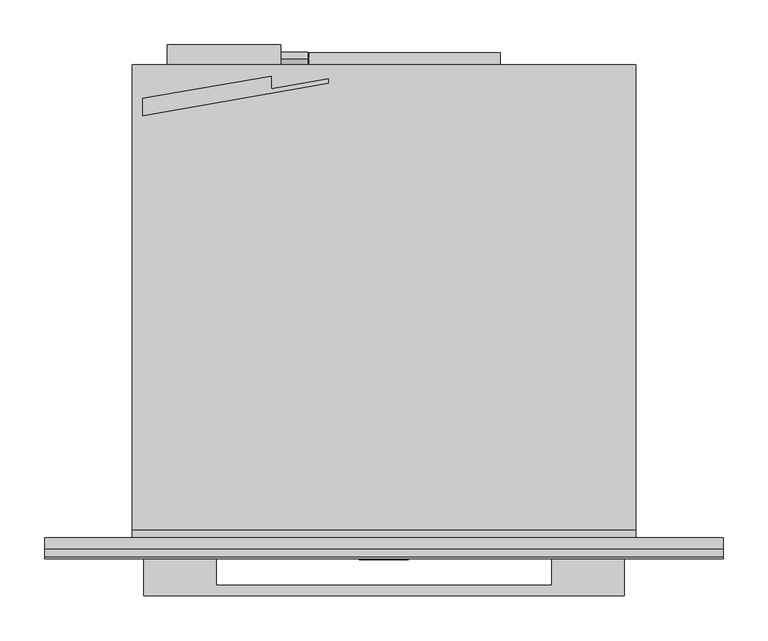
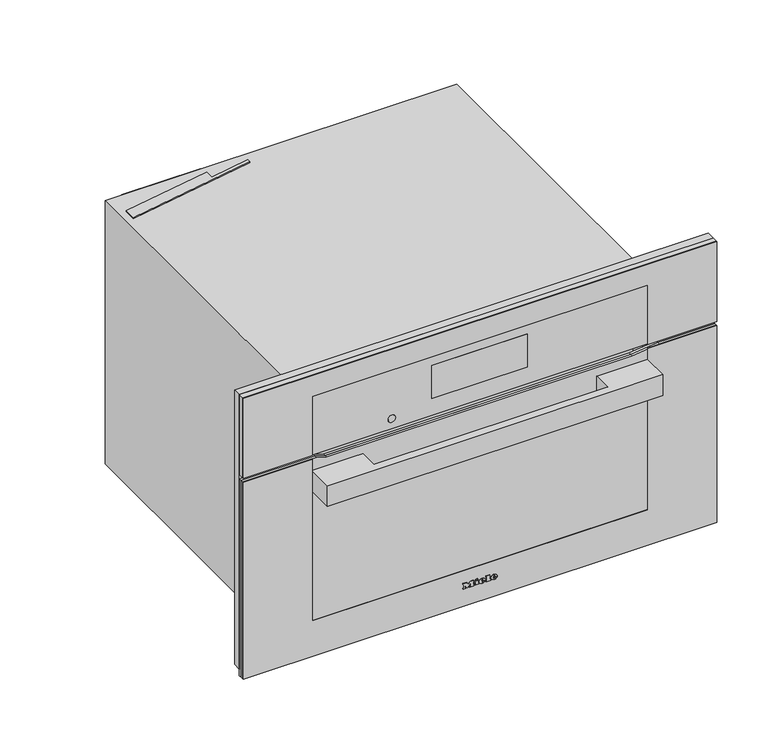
"""IFC4 building model written with IfcOpenShell, lengths in millimetres: proxy geometry, 11804620_USA_H7770BM_EDST-CLST : 22777046_USA_11804620_H7770BM_EDST-CLST."""

from ifc_helpers import new_model, si_unit, point, frame, frame_2d, origin, place, context, project, spatial, polyline, circle_curve, ellipse_curve, trimmed, segment, composite_curve, outline, extrude, faceted_brep, source, transform, mapped, element, save
from ifc_brep_helpers import plane_surface, cylinder_surface, revolved_surface, extruded_surface, advanced_brep


def specialty_equipment_66f69a2f(model_context):
    return source(origin(), model_context, "Body", "SolidModel", [
        advanced_brep(
        [(21.28, -24.3, 36.133), (21.28, -24.3, 37.042), (27.301, -24.3, 37.042), (16.825, -24.3, 37.042), (19.3, -24.3, 34.0), (27.148, -24.3, 36.133), (24.43, -24.3, 36.133), (22.288, -24.3, 35.125), (21.28, -24.3, 38.194), (21.28, -24.3, 39.175), (22.819, -24.3, 39.175), (22.819, -24.3, 38.194), (21.28, -23.3, 36.133), (22.288, -23.3, 35.125), (24.43, -23.3, 36.133), (27.148, -23.3, 36.133), (19.3, -23.3, 34.0), (16.825, -23.3, 37.042), (27.301, -23.3, 37.042), (21.28, -23.3, 37.042), (21.28, -23.3, 38.194), (22.819, -23.3, 38.194), (22.819, -23.3, 39.175), (21.28, -23.3, 39.175)],
        [
            (0, 1),
            (1, 2),
            (2, 3, ellipse_curve(frame((22.063, -24.3, 37.042), z_axis=(0.0, -1.0, 0.0), x_axis=(-1.0, 0.0, 0.0)), 5.238, 4.329)),
            (3, 4, circle_curve(frame((20.3080491, -24.3, 37.348), z_axis=(0.0, -1.0, 0.0), x_axis=(0.0, 0.0, -1.0)), 3.4964649)),
            (4, 5, circle_curve(frame((21.9581428, -24.3, 39.724), z_axis=(0.0, -1.0, 0.0), x_axis=(0.0, 0.0, -1.0)), 6.3110933)),
            (5, 6),
            (6, 7, circle_curve(frame((22.7279412, -24.3, 36.97), z_axis=(0.0, 1.0, 0.0), x_axis=(0.0, 0.0, -1.0)), 1.896727)),
            (7, 0, circle_curve(frame((22.288, -24.3, 36.133), z_axis=(0.0, 1.0, 0.0), x_axis=(0.0, 0.0, -1.0)), 1.008)),
            (8, 9),
            (9, 10, circle_curve(frame((22.0495, -24.3, 39.175), z_axis=(0.0, 1.0, 0.0), x_axis=(0.0, 0.0, -1.0)), 0.7695)),
            (10, 11),
            (11, 8),
            (12, 13, circle_curve(frame((22.288, -23.3, 36.133), z_axis=(0.0, -1.0, 0.0), x_axis=(0.0, 0.0, -1.0)), 1.008)),
            (13, 14, circle_curve(frame((22.7279412, -23.3, 36.97), z_axis=(0.0, -1.0, 0.0), x_axis=(0.0, 0.0, -1.0)), 1.896727)),
            (14, 15),
            (15, 16, circle_curve(frame((21.9581428, -23.3, 39.724), z_axis=(0.0, 1.0, 0.0), x_axis=(0.0, 0.0, -1.0)), 6.3110933)),
            (16, 17, circle_curve(frame((20.3080491, -23.3, 37.348), z_axis=(0.0, 1.0, 0.0), x_axis=(0.0, 0.0, -1.0)), 3.4964649)),
            (17, 18, ellipse_curve(frame((22.063, -23.3, 37.042), z_axis=(0.0, 1.0, 0.0), x_axis=(-1.0, 0.0, 0.0)), 5.238, 4.329)),
            (18, 19),
            (19, 12),
            (20, 21),
            (21, 22),
            (22, 23, circle_curve(frame((22.0495, -23.3, 39.175), z_axis=(0.0, -1.0, 0.0), x_axis=(0.0, 0.0, -1.0)), 0.7695)),
            (23, 20),
            (0, 12),
            (19, 1),
            (18, 2),
            (5, 15),
            (14, 6),
            (17, 3),
            (13, 7),
            (16, 4),
            (8, 20),
            (23, 9),
            (22, 10),
            (21, 11),
        ],
        [
            plane_surface(frame((21.28, -24.3, 37.042), z_axis=(0.0, -1.0, 0.0), x_axis=(0.0, 0.0, 1.0))),
            plane_surface(frame((21.28, -23.3, 37.042), z_axis=(0.0, 1.0, 0.0), x_axis=(0.0, 0.0, -1.0))),
            plane_surface(frame((21.28, -24.3, 36.133), z_axis=(1.0, 0.0, 0.0), x_axis=(0.0, 1.0, 0.0))),
            plane_surface(frame((21.28, -24.3, 37.042), z_axis=(0.0, 0.0, -1.0), x_axis=(0.0, 1.0, 0.0))),
            plane_surface(frame((27.148, -24.3, 36.133), z_axis=(0.0, 0.0, 1.0), x_axis=(0.0, 1.0, 0.0))),
            extruded_surface(trimmed(ellipse_curve(frame((22.063, -22.3, 37.042), z_axis=(0.0, -1.0, 0.0), x_axis=(-1.0, 0.0, 0.0)), 5.238, 4.329), [point((27.301, -22.3, 37.042))], [point((16.825, -22.3, 37.042))], True, "CARTESIAN"), (0.0, -1.0, 0.0), 1.0),
            revolved_surface(polyline([(22.7279412, -23.3, 35.073273), (22.7279412, -24.3, 35.073273)]), (22.7279412, -23.3, 36.97), (0.0, 1.0, 0.0)),
            revolved_surface(polyline([(22.288, -23.3, 35.125), (22.288, -24.3, 35.125)]), (22.288, -23.3, 36.133), (0.0, 1.0, 0.0)),
            cylinder_surface(frame((20.3080491, -23.3, 37.348), z_axis=(0.0, -1.0, 0.0), x_axis=(0.0, 0.0, -1.0)), 3.4964649),
            cylinder_surface(frame((21.9581428, -23.3, 39.724), z_axis=(0.0, -1.0, 0.0), x_axis=(0.0, 0.0, -1.0)), 6.3110933),
            plane_surface(frame((21.28, -24.3, 38.194), z_axis=(1.0, 0.0, 0.0), x_axis=(0.0, 1.0, 0.0))),
            revolved_surface(polyline([(22.0495, -23.3, 38.405499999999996), (22.0495, -24.3, 38.405499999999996)]), (22.0495, -23.3, 39.175), (0.0, 1.0, 0.0)),
            plane_surface(frame((22.819, -24.3, 39.175), z_axis=(-1.0, 0.0, 0.0), x_axis=(0.0, 1.0, 0.0))),
            plane_surface(frame((22.819, -24.3, 38.194), z_axis=(0.0, 0.0, 1.0), x_axis=(0.0, 1.0, 0.0))),
        ],
        [
            (0, [[1, 2, 3, 4, 5, 6, 7, 8], [9, 10, 11, 12]]),
            (1, [[13, 14, 15, 16, 17, 18, 19, 20], [21, 22, 23, 24]]),
            (2, [[-1, 25, -20, 26]]),
            (3, [[-2, -26, -19, 27]]),
            (4, [[-6, 28, -15, 29]]),
            (5, [[-3, -27, -18, 30]]),
            (6, [[-7, -29, -14, 31]]),
            (7, [[-8, -31, -13, -25]]),
            (8, [[-4, -30, -17, 32]]),
            (9, [[-5, -32, -16, -28]]),
            (10, [[-9, 33, -24, 34]]),
            (11, [[-10, -34, -23, 35]]),
            (12, [[-11, -35, -22, 36]]),
            (13, [[-12, -36, -21, -33]]),
        ],
    ),
        advanced_brep(
        [(2.497, -24.3, 36.133), (2.497, -24.3, 37.042), (8.518, -24.3, 37.042), (-1.958, -24.3, 37.042), (0.517, -24.3, 34.0), (8.365, -24.3, 36.133), (5.647, -24.3, 36.133), (3.505, -24.3, 35.125), (2.497, -24.3, 38.194), (2.497, -24.3, 39.175), (4.036, -24.3, 39.175), (4.036, -24.3, 38.194), (2.497, -23.3, 36.133), (3.505, -23.3, 35.125), (5.647, -23.3, 36.133), (8.365, -23.3, 36.133), (0.517, -23.3, 34.0), (-1.958, -23.3, 37.042), (8.518, -23.3, 37.042), (2.497, -23.3, 37.042), (2.497, -23.3, 38.194), (4.036, -23.3, 38.194), (4.036, -23.3, 39.175), (2.497, -23.3, 39.175)],
        [
            (0, 1),
            (1, 2),
            (2, 3, ellipse_curve(frame((3.28, -24.3, 37.042), z_axis=(0.0, -1.0, 0.0), x_axis=(-1.0, 0.0, 0.0)), 5.238, 4.329)),
            (3, 4, circle_curve(frame((1.5250491, -24.3, 37.348), z_axis=(0.0, -1.0, 0.0), x_axis=(0.0, 0.0, -1.0)), 3.4964649)),
            (4, 5, circle_curve(frame((3.1751428, -24.3, 39.724), z_axis=(0.0, -1.0, 0.0), x_axis=(0.0, 0.0, -1.0)), 6.3110933)),
            (5, 6),
            (6, 7, circle_curve(frame((3.9449412, -24.3, 36.97), z_axis=(0.0, 1.0, 0.0), x_axis=(0.0, 0.0, -1.0)), 1.896727)),
            (7, 0, circle_curve(frame((3.505, -24.3, 36.133), z_axis=(0.0, 1.0, 0.0), x_axis=(0.0, 0.0, -1.0)), 1.008)),
            (8, 9),
            (9, 10, circle_curve(frame((3.2665, -24.3, 39.175), z_axis=(0.0, 1.0, 0.0), x_axis=(0.0, 0.0, -1.0)), 0.7695)),
            (10, 11),
            (11, 8),
            (12, 13, circle_curve(frame((3.505, -23.3, 36.133), z_axis=(0.0, -1.0, 0.0), x_axis=(0.0, 0.0, -1.0)), 1.008)),
            (13, 14, circle_curve(frame((3.9449412, -23.3, 36.97), z_axis=(0.0, -1.0, 0.0), x_axis=(0.0, 0.0, -1.0)), 1.896727)),
            (14, 15),
            (15, 16, circle_curve(frame((3.1751428, -23.3, 39.724), z_axis=(0.0, 1.0, 0.0), x_axis=(0.0, 0.0, -1.0)), 6.3110933)),
            (16, 17, circle_curve(frame((1.5250491, -23.3, 37.348), z_axis=(0.0, 1.0, 0.0), x_axis=(0.0, 0.0, -1.0)), 3.4964649)),
            (17, 18, ellipse_curve(frame((3.28, -23.3, 37.042), z_axis=(0.0, 1.0, 0.0), x_axis=(-1.0, 0.0, 0.0)), 5.238, 4.329)),
            (18, 19),
            (19, 12),
            (20, 21),
            (21, 22),
            (22, 23, circle_curve(frame((3.2665, -23.3, 39.175), z_axis=(0.0, -1.0, 0.0), x_axis=(0.0, 0.0, -1.0)), 0.7695)),
            (23, 20),
            (0, 12),
            (19, 1),
            (18, 2),
            (5, 15),
            (14, 6),
            (17, 3),
            (13, 7),
            (16, 4),
            (8, 20),
            (23, 9),
            (22, 10),
            (21, 11),
        ],
        [
            plane_surface(frame((2.497, -24.3, 37.042), z_axis=(0.0, -1.0, 0.0), x_axis=(0.0, 0.0, 1.0))),
            plane_surface(frame((2.497, -23.3, 37.042), z_axis=(0.0, 1.0, 0.0), x_axis=(0.0, 0.0, -1.0))),
            plane_surface(frame((2.497, -24.3, 36.133), z_axis=(1.0, 0.0, 0.0), x_axis=(0.0, 1.0, 0.0))),
            plane_surface(frame((2.497, -24.3, 37.042), z_axis=(0.0, 0.0, -1.0), x_axis=(0.0, 1.0, 0.0))),
            plane_surface(frame((8.365, -24.3, 36.133), z_axis=(0.0, 0.0, 1.0), x_axis=(0.0, 1.0, 0.0))),
            extruded_surface(trimmed(ellipse_curve(frame((3.28, -22.3, 37.042), z_axis=(0.0, -1.0, 0.0), x_axis=(-1.0, 0.0, 0.0)), 5.238, 4.329), [point((8.518, -22.3, 37.042))], [point((-1.958, -22.3, 37.042))], True, "CARTESIAN"), (0.0, -1.0, 0.0), 1.0),
            revolved_surface(polyline([(3.9449412, -23.3, 35.073273), (3.9449412, -24.3, 35.073273)]), (3.9449412, -23.3, 36.97), (0.0, 1.0, 0.0)),
            revolved_surface(polyline([(3.505, -23.3, 35.125), (3.505, -24.3, 35.125)]), (3.505, -23.3, 36.133), (0.0, 1.0, 0.0)),
            cylinder_surface(frame((1.5250491, -23.3, 37.348), z_axis=(0.0, -1.0, 0.0), x_axis=(0.0, 0.0, -1.0)), 3.4964649),
            cylinder_surface(frame((3.1751428, -23.3, 39.724), z_axis=(0.0, -1.0, 0.0), x_axis=(0.0, 0.0, -1.0)), 6.3110933),
            plane_surface(frame((2.497, -24.3, 38.194), z_axis=(1.0, 0.0, 0.0), x_axis=(0.0, 1.0, 0.0))),
            revolved_surface(polyline([(3.2665, -23.3, 38.405499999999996), (3.2665, -24.3, 38.405499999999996)]), (3.2665, -23.3, 39.175), (0.0, 1.0, 0.0)),
            plane_surface(frame((4.036, -24.3, 39.175), z_axis=(-1.0, 0.0, 0.0), x_axis=(0.0, 1.0, 0.0))),
            plane_surface(frame((4.036, -24.3, 38.194), z_axis=(0.0, 0.0, 1.0), x_axis=(0.0, 1.0, 0.0))),
        ],
        [
            (0, [[1, 2, 3, 4, 5, 6, 7, 8], [9, 10, 11, 12]]),
            (1, [[13, 14, 15, 16, 17, 18, 19, 20], [21, 22, 23, 24]]),
            (2, [[-1, 25, -20, 26]]),
            (3, [[-2, -26, -19, 27]]),
            (4, [[-6, 28, -15, 29]]),
            (5, [[-3, -27, -18, 30]]),
            (6, [[-7, -29, -14, 31]]),
            (7, [[-8, -31, -13, -25]]),
            (8, [[-4, -30, -17, 32]]),
            (9, [[-5, -32, -16, -28]]),
            (10, [[-9, 33, -24, 34]]),
            (11, [[-10, -34, -23, 35]]),
            (12, [[-11, -35, -22, 36]]),
            (13, [[-12, -36, -21, -33]]),
        ],
    ),
        extrude(outline(polyline([(42.469, -7.34), (41.011, -6.656), (42.433, -3.605), (43.891, -4.28), (42.469, -7.34)])), frame((0.0, -24.3, 0.0), z_axis=(0.0, 1.0, 0.0), x_axis=(0.0, 0.0, 1.0)), (0.0, 0.0, 1.0), 1.0),
        extrude(outline(polyline([(40.813, -9.563), (39.202, -9.563), (39.202, -8.492), (35.512, -8.492), (35.512, -9.563), (34.0, -9.563), (34.0, -2.462), (35.512, -2.462), (35.512, -3.506), (40.813, -3.506), (40.813, -9.563)])), frame((0.0, -24.3, 0.0), z_axis=(0.0, 1.0, 0.0), x_axis=(0.0, 0.0, 1.0)), (0.0, 0.0, 1.0), 1.0),
        extrude(outline(polyline([(41.533, 9.022), (41.533, 10.102), (35.512, 10.102), (35.512, 9.022), (34.0, 9.022), (34.0, 16.321), (35.512, 16.321), (35.512, 15.214), (43.0, 15.214), (43.0, 9.022), (41.533, 9.022)])), frame((0.0, -24.3, 0.0), z_axis=(0.0, 1.0, 0.0), x_axis=(0.0, 0.0, 1.0)), (0.0, 0.0, 1.0), 1.0),
        extrude(outline(polyline([(41.533, -27.5), (41.533, -26.411), (35.512, -26.411), (35.512, -27.5), (34.0, -27.5), (34.0, -23.54), (35.512, -23.54), (35.512, -24.62), (39.3341247, -24.62), (34.0, -20.597), (39.4402223, -16.556), (35.512, -16.556), (35.512, -17.663), (34.0, -17.663), (34.0, -10.481), (35.512, -10.481), (35.512, -11.624), (41.533, -11.624), (41.533, -10.481), (43.0, -10.481), (43.0, -15.962), (39.625, -18.59), (43.0, -21.227), (43.0, -27.5), (41.533, -27.5)])), frame((0.0, -24.3, 0.0), z_axis=(0.0, 1.0, 0.0), x_axis=(0.0, 0.0, 1.0)), (0.0, 0.0, 1.0), 1.0),
        extrude(outline(polyline([(337.0, -268.5), (337.0, -378.5), (4.0, -378.5), (4.0, 378.5), (337.0, 378.5), (337.0, 268.5), (64.0, 268.5), (64.0, -268.5), (337.0, -268.5)])), frame((0.0, -23.3, 0.0), z_axis=(0.0, 1.0, 0.0), x_axis=(0.0, 0.0, 1.0)), (0.0, 0.0, 1.0), 1.3),
        extrude(outline(polyline([(337.0, -378.5), (4.0, -378.5), (4.0, 378.5), (337.0, 378.5), (337.0, 287.3542631), (332.0, 244.0), (332.0, -244.0), (337.0, -260.3542631), (337.0, -378.5)])), frame((0.0, -22.0, 0.0), z_axis=(0.0, 1.0, 0.0), x_axis=(0.0, 0.0, 1.0)), (0.0, 0.0, 1.0), 4.0),
        extrude(outline(polyline([(-187.0, -22.0), (-187.0, -53.0), (187.0, -53.0), (187.0, -22.0), (268.0, -22.0), (268.0, -65.0), (-268.0, -65.0), (-268.0, -22.0), (-187.0, -22.0)])), frame((0.0, 0.0, 283.0), z_axis=(0.0, 0.0, 1.0), x_axis=(1.0, 0.0, 0.0)), (0.0, 0.0, 1.0), 35.0),
        extrude(outline(polyline([(337.0, -378.5), (4.0, -378.5), (4.0, 378.5), (337.0, 378.5), (337.0, 287.3542631), (332.0, 244.0), (332.0, -244.0), (337.0, -260.3542631), (337.0, -378.5)])), frame((0.0, -18.0, 0.0), z_axis=(0.0, 1.0, 0.0), x_axis=(0.0, 0.0, 1.0)), (0.0, 0.0, 1.0), 5.0),
        extrude(outline(polyline([(-199.5, -18.0), (199.5, -18.0), (199.5, -22.0), (-199.5, -22.0), (-199.5, -18.0)])), frame((0.0, 0.0, 82.0), z_axis=(0.0, 0.0, 1.0), x_axis=(1.0, 0.0, 0.0)), (0.0, 0.0, 1.0), 170.0),
        extrude(outline(polyline([(479.0, -378.5), (344.0, -378.5), (344.0, -268.5), (444.0, -268.5), (444.0, 268.5), (344.0, 268.5), (344.0, 378.5), (479.0, 378.5), (479.0, -378.5)])), frame((0.0, -23.3, 0.0), z_axis=(0.0, 1.0, 0.0), x_axis=(0.0, 0.0, 1.0)), (0.0, 0.0, 1.0), 1.3),
        extrude(outline(polyline([(-76.5, -21.0), (76.5, -21.0), (76.5, -22.0), (-76.5, -22.0), (-76.5, -21.0)])), frame((0.0, 0.0, 372.0), z_axis=(0.0, 0.0, 1.0), x_axis=(1.0, 0.0, 0.0)), (0.0, 0.0, 1.0), 56.0),
        faceted_brep([(378.5, -22.0, 479.0), (-378.5, -22.0, 479.0), (-378.5, -22.0, 344.0), (378.5, -22.0, 344.0), (76.5, -22.0, 428.0), (76.5, -22.0, 372.0), (-76.5, -22.0, 372.0), (-76.5, -22.0, 428.0), (378.5, -13.0, 479.0), (378.5, -13.0, 344.0), (-378.5, -13.0, 344.0), (-378.5, -13.0, 479.0), (76.5, -21.0, 428.0), (-76.5, -21.0, 428.0), (-76.5, -21.0, 372.0), (76.5, -21.0, 372.0)], [[[0, 1, 2, 3], [4, 5, 6, 7]], [[8, 9, 10, 11]], [[1, 0, 8, 11]], [[2, 1, 11, 10]], [[3, 2, 10, 9]], [[0, 3, 9, 8]], [[12, 13, 14, 15]], [[12, 15, 5, 4]], [[15, 14, 6, 5]], [[14, 13, 7, 6]], [[13, 12, 4, 7]]]),
        extrude(outline(composite_curve([segment(trimmed(circle_curve(frame_2d((361.0, -140.5745637)), 6.0), [point((361.0, -146.5745637))], [point((361.0, -134.5745637))], False, "CARTESIAN"), True, "CONTINUOUS"), segment(trimmed(circle_curve(frame_2d((361.0, -140.5745637)), 6.0), [point((361.0, -134.5745637))], [point((361.0, -146.5745637))], False, "CARTESIAN"), True, "CONTINUOUS")], self_intersect=False)), frame((0.0, -22.5, 0.0), z_axis=(0.0, 1.0, 0.0), x_axis=(0.0, 0.0, 1.0)), (0.0, 0.0, 1.0), 1.0),
        extrude(outline(polyline([(-269.0, 490.2851942), (-126.0, 515.1547594), (-126.0, 500.9446163), (-62.0, 512.0750511), (-62.0, 507.0), (-269.0, 471.0), (-269.0, 490.2851942)])), frame((0.0, 0.0, 445.0), z_axis=(0.0, 0.0, 1.0), x_axis=(1.0, 0.0, 0.0)), (0.0, 0.0, 1.0), 2.0),
        extrude(outline(polyline([(528.134837, 358.3256163), (533.9911721, 358.3256163), (533.9911721, 357.3256163), (529.134837, 357.3256163), (529.134837, 353.8256163), (532.0849866, 353.8256163), (532.0849866, 352.8256163), (529.134837, 352.8256163), (529.134837, 349.3256163), (533.9911721, 349.3256163), (533.9911721, 348.3256163), (528.134837, 348.3256163), (528.134837, 358.3256163)])), frame((-85.0, 0.0, 0.0), z_axis=(1.0, 0.0, 0.0), x_axis=(0.0, 1.0, 0.0)), (0.0, 0.0, 1.0), 1.0),
        extrude(outline(polyline([(535.4911721, 348.3256163), (535.4911721, 358.3256163), (536.5959622, 358.3256163), (536.5959622, 349.3256163), (540.4911721, 349.3256163), (540.4911721, 348.3256163), (535.4911721, 348.3256163)])), frame((-85.0, 0.0, 0.0), z_axis=(1.0, 0.0, 0.0), x_axis=(0.0, 1.0, 0.0)), (0.0, 0.0, 1.0), 1.0),
        extrude(outline(composite_curve([segment(trimmed(circle_curve(frame_2d((534.0, 353.0)), 7.5), [point((534.0, 345.5))], [point((534.0, 360.5))], False, "CARTESIAN"), True, "CONTINUOUS"), segment(trimmed(circle_curve(frame_2d((534.0, 353.0)), 7.5), [point((534.0, 360.5))], [point((534.0, 345.5))], False, "CARTESIAN"), True, "CONTINUOUS")], self_intersect=False)), frame((-115.0, 0.0, 0.0), z_axis=(1.0, 0.0, 0.0), x_axis=(0.0, 1.0, 0.0)), (0.0, 0.0, 1.0), 30.0),
        extrude(outline(polyline([(-115.0, 528.0), (-242.0, 528.0), (-242.0, 550.0), (-115.0, 550.0), (-115.0, 528.0)])), frame((0.0, 0.0, 325.0), z_axis=(0.0, 0.0, 1.0), x_axis=(1.0, 0.0, 0.0)), (0.0, 0.0, 1.0), 103.0),
        faceted_brep([(272.5, 25.0, 344.0), (-272.5, 25.0, 344.0), (-272.5, 25.0, 15.0), (272.5, 25.0, 15.0), (-235.0, 25.0, 270.0), (235.0, 25.0, 270.0), (235.0, 25.0, 60.0), (-235.0, 25.0, 60.0), (272.5, 0.0, 344.0), (-272.5, 0.0, 344.0), (-272.5, 0.0, 15.0), (272.5, 0.0, 15.0), (281.0, 0.0, 0.0), (281.0, 528.0, 0.0), (281.0, 528.0, 445.0), (281.0, 9.0, 445.0), (281.0, 9.0, 440.0), (281.0, 0.0, 440.0), (-281.0, 9.0, 445.0), (-281.0, 528.0, 445.0), (-281.0, 528.0, 0.0), (-281.0, 0.0, 0.0), (-281.0, 0.0, 440.0), (-281.0, 9.0, 440.0), (235.0, 433.0, 270.0), (-235.0, 433.0, 270.0), (-235.0, 433.0, 60.0), (235.0, 433.0, 60.0)], [[[0, 1, 2, 3], [4, 5, 6, 7]], [[1, 0, 8, 9]], [[2, 1, 9, 10]], [[0, 3, 11, 8]], [[12, 13, 14, 15, 16, 17]], [[18, 19, 20, 21, 22, 23]], [[13, 12, 21, 20]], [[14, 13, 20, 19]], [[15, 14, 19, 18]], [[21, 12, 17, 22], [9, 8, 11, 10]], [[24, 25, 26, 27]], [[25, 24, 5, 4]], [[26, 25, 4, 7]], [[27, 26, 7, 6]], [[24, 27, 6, 5]], [[3, 2, 10, 11]], [[16, 23, 22, 17]], [[23, 16, 15, 18]]]),
        extrude(outline(polyline([(130.0, 528.0), (-130.0, 528.0), (-130.0, 541.0), (130.0, 541.0), (130.0, 528.0)])), frame((0.0, 0.0, 36.0), z_axis=(0.0, 0.0, 1.0), x_axis=(1.0, 0.0, 0.0)), (0.0, 0.0, 1.0), 260.0),
        extrude(outline(polyline([(15.0, 378.5), (479.0, 378.5), (479.0, -378.5), (15.0, -378.5), (15.0, -272.5), (344.0, -272.5), (344.0, 272.5), (15.0, 272.5), (15.0, 378.5)])), frame((0.0, -13.0, 0.0), z_axis=(0.0, 1.0, 0.0), x_axis=(0.0, 0.0, 1.0)), (0.0, 0.0, 1.0), 13.0),
    ])


if __name__ == "__main__":
    model = new_model("IFC4")
    model_context = context("Model", 3, world=origin())
    ifc_project = project(units=[si_unit("LENGTHUNIT", "METRE", prefix="MILLI")], contexts=[model_context])
    site = spatial("IfcSite", under=ifc_project)
    building = spatial("IfcBuilding", under=site)
    placement = place(None, origin())
    specialty_equipment_shape = specialty_equipment_66f69a2f(model_context)
    element("IfcBuildingElementProxy", 1, Name="11804620_USA_H7770BM_EDST-CLST : 22777046_USA_11804620_H7770BM_EDST-CLST", ObjectType="11804620_USA_H7770BM_EDST-CLST : 22777046_USA_11804620_H7770BM_EDST-CLST", at=placement, inside=building, context=model_context, shape_type="MappedRepresentation", body=[
        mapped(specialty_equipment_shape, transform((0.0, 0.0, 0.0), x_axis=(1.0, 0.0, 0.0), y_axis=(0.0, 1.0, 0.0), z_axis=(0.0, 0.0, 1.0))),
    ])
    save(model, "model.ifc")
